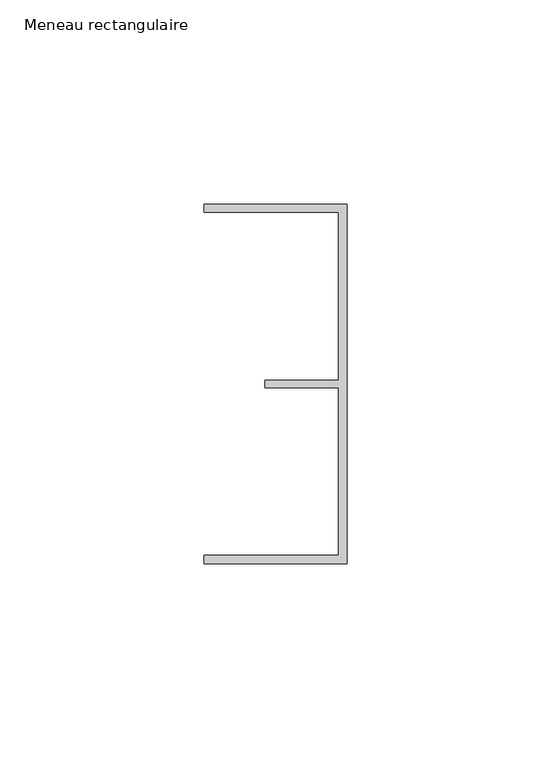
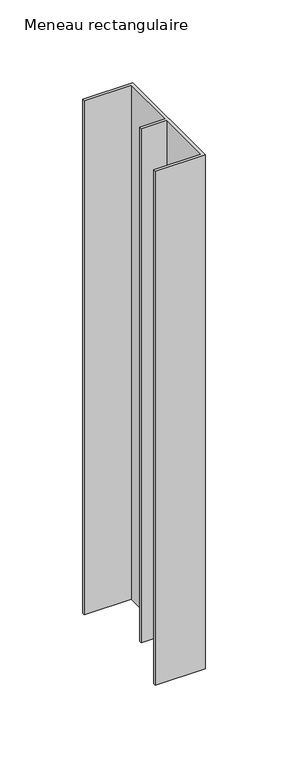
"""IFC4 building model written with IfcOpenShell, lengths in millimetres: member geometry, Meneau rectangulaire : LISSERIE_PLAFOND_COIFFANTE 94-KLP00-P80-SD20ALU."""

from ifc_helpers import new_model, si_unit, frame, origin, place, context, project, spatial, polyline, outline, extrude, source, transform, mapped, element, save


def meneau_rectangulaire_246d8702(model_context):
    return source(origin(), model_context, "Body", "SweptSolid", [
        extrude(outline(polyline([(0.0, 44.0), (0.0, -44.0), (-35.0, -44.0), (-35.0, -42.0), (-2.0, -42.0), (-2.0, -0.9316478), (-20.0, -0.9316478), (-20.0, 0.9316478), (-2.0, 0.9316478), (-2.0, 42.0), (-35.0, 42.0), (-35.0, 44.0), (0.0, 44.0)])), frame((0.0, 0.0, -379.8), z_axis=(0.0, 0.0, 1.0), x_axis=(1.0, 0.0, 0.0)), (0.0, 0.0, 1.0), 379.8),
    ])


if __name__ == "__main__":
    model = new_model("IFC4")
    model_context = context("Model", 3, world=origin())
    ifc_project = project(units=[si_unit("LENGTHUNIT", "METRE", prefix="MILLI")], contexts=[model_context])
    site = spatial("IfcSite", under=ifc_project)
    building = spatial("IfcBuilding", under=site)
    placement = place(None, origin())
    meneau_rectangulaire_shape = meneau_rectangulaire_246d8702(model_context)
    element("IfcMember", 1, ObjectType="Meneau rectangulaire : LISSERIE_PLAFOND_COIFFANTE 94-KLP00-P80-SD20ALU", at=placement, inside=building, context=model_context, shape_type="MappedRepresentation", body=[
        mapped(meneau_rectangulaire_shape, transform((0.0, 0.0, 0.0), x_axis=(1.0, 0.0, 0.0), y_axis=(0.0, 1.0, 0.0), z_axis=(0.0, 0.0, 1.0))),
    ])
    save(model, "model.ifc")
